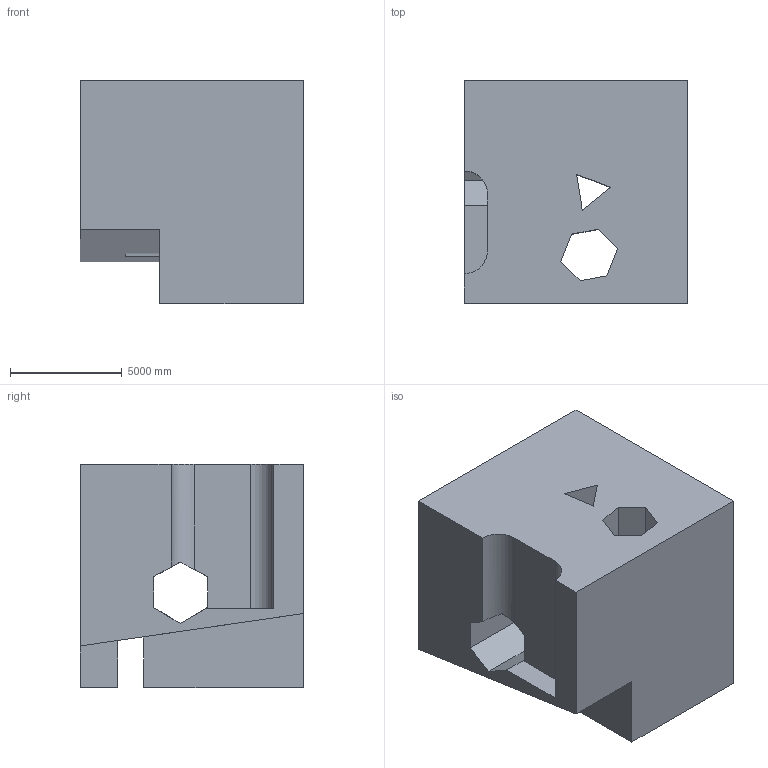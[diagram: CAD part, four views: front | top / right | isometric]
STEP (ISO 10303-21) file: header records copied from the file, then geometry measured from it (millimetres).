
FILE_DESCRIPTION (( 'STEP AP203' ), '1' );
FILE_NAME ('300.STEP', '2022-09-07T12:42:47', ( 'user' ), ( '' ), 'SwSTEP 2.0', 'SolidWorks 2021', '' );
FILE_SCHEMA (( 'CONFIG_CONTROL_DESIGN' ));
Length unit declared in the file: centimetre
Products named in the file (1): 300
Bounding box: 10000 x 10000 x 10000 mm (x, y, z)
Volume: 763121931339.9 mm3; surface area: 784940200 mm2
Topology: 1 solids, 1 shells, 37 faces, 114 edges, 76 vertices
Faces by surface type: plane 34, cylinder 3
Entity records: 1348 total; most frequent: CARTESIAN_POINT 234, ORIENTED_EDGE 228, DIRECTION 195, EDGE_CURVE 114, VECTOR 105, LINE 105, VERTEX_POINT 76, AXIS2_PLACEMENT_3D 45
